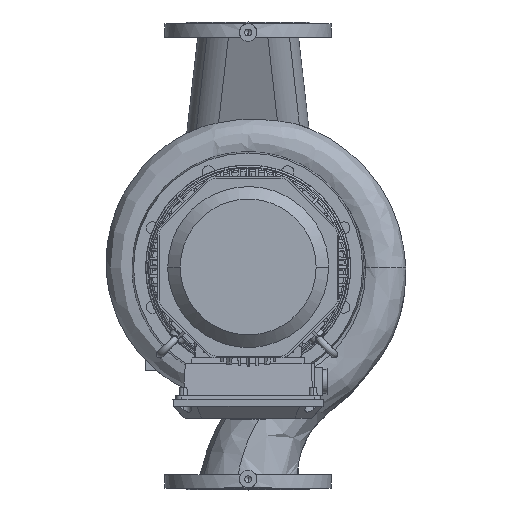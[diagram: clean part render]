
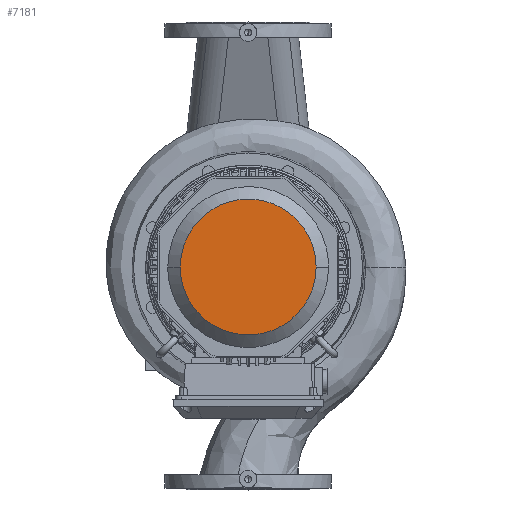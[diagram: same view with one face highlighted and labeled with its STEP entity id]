
A CAD part, top view. The second image highlights one B-rep face of the part: STEP entity #7181.
In plain terms, the highlighted free-form (B-spline) face has degree [1, 1] with [2, 2] control points.
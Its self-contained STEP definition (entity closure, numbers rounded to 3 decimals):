
#7181=ADVANCED_FACE('      F3',(#17430),#17431,.T.);
#7263=EDGE_CURVE('     E20',#17556,#17557,#17558,.T.);
#7267=EDGE_CURVE('     E20',#17557,#17556,#17562,.T.);
#17430=FACE_OUTER_BOUND('',#35022,.T.);
#17431=B_SPLINE_SURFACE_WITH_KNOTS('',1,1,((#35023,#35024),(#35025,#35026)),.UNSPECIFIED.,.F.,.F.,.F.,(2,2),(2,2),(0.044,0.955),(0.039,0.96),.UNSPECIFIED.);
#17556=VERTEX_POINT('',#35467);
#17557=VERTEX_POINT('',#35468);
#17558=(B_SPLINE_CURVE(2,(#35470,#35471,#35472,#35473,#35474),.UNSPECIFIED.,.F.,.F.)B_SPLINE_CURVE_WITH_KNOTS((3,2,3),(56.637,75.516,113.274),.UNSPECIFIED.)RATIONAL_B_SPLINE_CURVE((0.75,0.75,1.0,0.5,1.0))BOUNDED_CURVE()REPRESENTATION_ITEM('')GEOMETRIC_REPRESENTATION_ITEM()CURVE());
#17562=(B_SPLINE_CURVE(2,(#35488,#35489,#35490,#35491,#35492),.UNSPECIFIED.,.F.,.F.)B_SPLINE_CURVE_WITH_KNOTS((3,2,3),(0.0,37.758,56.637),.UNSPECIFIED.)RATIONAL_B_SPLINE_CURVE((1.0,0.5,1.0,0.75,0.75))BOUNDED_CURVE()REPRESENTATION_ITEM('')GEOMETRIC_REPRESENTATION_ITEM()CURVE());
#35022=EDGE_LOOP('',(#71452,#71453));
#35023=CARTESIAN_POINT('',(116.548,-116.667,-389.037));
#35024=CARTESIAN_POINT('',(116.548,116.396,-389.037));
#35025=CARTESIAN_POINT('',(-116.165,-116.667,-389.037));
#35026=CARTESIAN_POINT('',(-116.165,116.396,-389.037));
#35467=CARTESIAN_POINT('',(116.157,0.,-389.037));
#35468=CARTESIAN_POINT('',(-116.157,0.,-389.037));
#35470=CARTESIAN_POINT('',(116.157,0.,-389.037));
#35471=CARTESIAN_POINT('',(116.157,67.063,-389.037));
#35472=CARTESIAN_POINT('',(58.078,100.595,-389.037));
#35473=CARTESIAN_POINT('',(-116.157,201.189,-389.037));
#35474=CARTESIAN_POINT('',(-116.157,0.,-389.037));
#35488=CARTESIAN_POINT('',(-116.157,0.,-389.037));
#35489=CARTESIAN_POINT('',(-116.157,-201.189,-389.037));
#35490=CARTESIAN_POINT('',(58.078,-100.595,-389.037));
#35491=CARTESIAN_POINT('',(116.157,-67.063,-389.037));
#35492=CARTESIAN_POINT('',(116.157,0.,-389.037));
#71452=ORIENTED_EDGE('',*,*,#7267,.F.);
#71453=ORIENTED_EDGE('',*,*,#7263,.F.);
